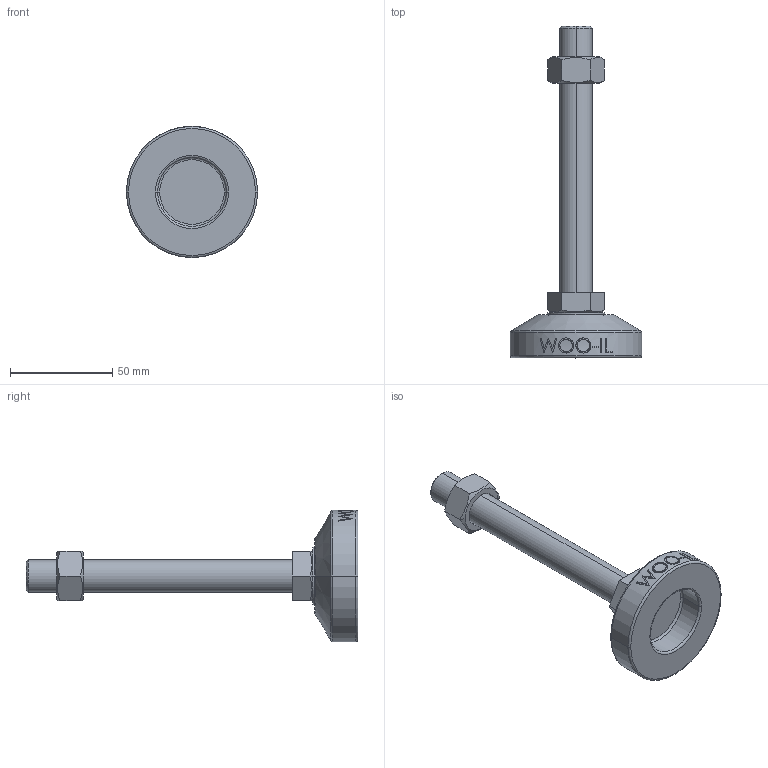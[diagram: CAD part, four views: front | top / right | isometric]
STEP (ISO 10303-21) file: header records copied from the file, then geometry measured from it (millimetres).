
FILE_DESCRIPTION (( 'STEP AP214' ), '1' );
FILE_NAME ('MFZ64-M16-130.step', '2021-01-15T07:06:08', ( '' ), ( '' ), 'SwSTEP 2.0', 'SolidWorks 2019', '' );
FILE_SCHEMA (( 'AUTOMOTIVE_DESIGN' ));
Length unit declared in the file: millimetre
Products named in the file (2): MFZ64-M16-130
Bounding box: 64 x 162 x 64 mm (x, y, z)
Volume: 82529.7 mm3; surface area: 21131.2 mm2
Topology: 3 solids, 3 shells, 106 faces, 243 edges, 154 vertices
Faces by surface type: plane 48, cylinder 18, bspline 16, cone 14, torus 10
Entity records: 4520 total; most frequent: CARTESIAN_POINT 2177, ORIENTED_EDGE 486, DIRECTION 439, EDGE_CURVE 243, AXIS2_PLACEMENT_3D 170, VERTEX_POINT 154, EDGE_LOOP 119, FACE_OUTER_BOUND 106
